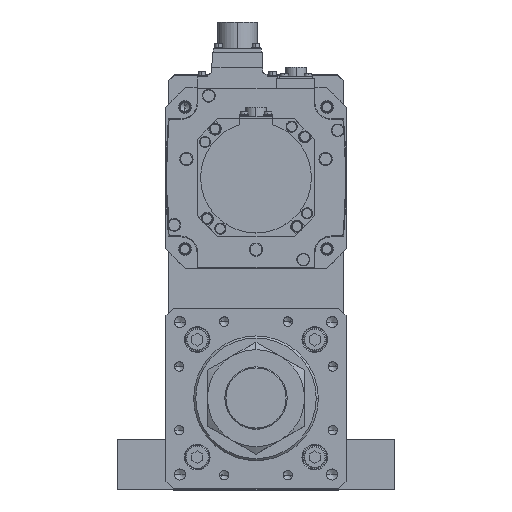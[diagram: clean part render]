
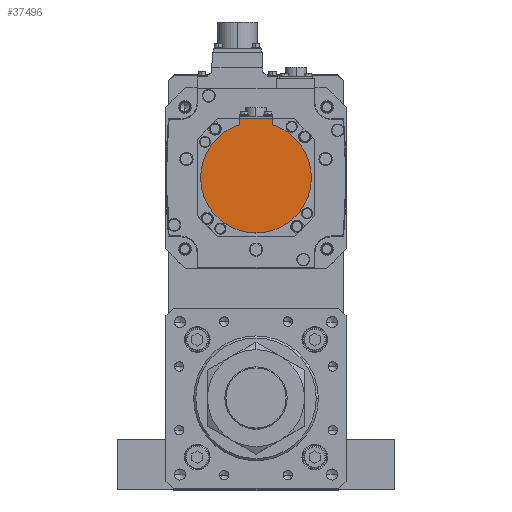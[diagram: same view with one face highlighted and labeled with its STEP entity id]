
A CAD part, top view. The second image highlights one B-rep face of the part: STEP entity #37496.
In plain terms, the highlighted planar face has unit normal (0, 0, 1) as drawn and (0, 0, -1) by its records, which use the part's own axes.
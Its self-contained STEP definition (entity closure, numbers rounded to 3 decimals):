
#13 = EDGE_CURVE ( 'NONE', #27817, #18389, #14792, .T. ) ;
#217 = EDGE_CURVE ( 'NONE', #10109, #5831, #19554, .T. ) ;
#2317 = DIRECTION ( 'NONE',  ( 1., 0., 0. ) ) ;
#4068 = CARTESIAN_POINT ( 'NONE',  ( 40., 0., -181. ) ) ;
#4081 = EDGE_LOOP ( 'NONE', ( #11604, #16901, #17465, #10511, #6328, #5099 ) ) ;
#4298 = DIRECTION ( 'NONE',  ( 1., 0., 0. ) ) ;
#4567 = AXIS2_PLACEMENT_3D ( 'NONE', #17778, #35994, #11926 ) ;
#4909 = VECTOR ( 'NONE', #25152, 1000. ) ;
#5099 = ORIENTED_EDGE ( 'NONE', *, *, #23858, .T. ) ;
#5509 = PLANE ( 'NONE',  #32263 ) ;
#5831 = VERTEX_POINT ( 'NONE', #10088 ) ;
#6102 = CARTESIAN_POINT ( 'NONE',  ( -12., -42.5, -181. ) ) ;
#6328 = ORIENTED_EDGE ( 'NONE', *, *, #217, .F. ) ;
#6397 = AXIS2_PLACEMENT_3D ( 'NONE', #38731, #29510, #20907 ) ;
#6482 = CARTESIAN_POINT ( 'NONE',  ( -12., -38.158, -181. ) ) ;
#6939 = CIRCLE ( 'NONE', #4567, 40. ) ;
#9593 = VERTEX_POINT ( 'NONE', #6102 ) ;
#10088 = CARTESIAN_POINT ( 'NONE',  ( 12., -38.158, -181. ) ) ;
#10109 = VERTEX_POINT ( 'NONE', #14183 ) ;
#10511 = ORIENTED_EDGE ( 'NONE', *, *, #18195, .F. ) ;
#11604 = ORIENTED_EDGE ( 'NONE', *, *, #21572, .T. ) ;
#11722 = FACE_OUTER_BOUND ( 'NONE', #4081, .T. ) ;
#11926 = DIRECTION ( 'NONE',  ( 1., 0., 0. ) ) ;
#12464 = VERTEX_POINT ( 'NONE', #6482 ) ;
#14183 = CARTESIAN_POINT ( 'NONE',  ( 12., -42.5, -181. ) ) ;
#14792 = CIRCLE ( 'NONE', #6397, 40. ) ;
#16646 = AXIS2_PLACEMENT_3D ( 'NONE', #31941, #37614, #4298 ) ;
#16901 = ORIENTED_EDGE ( 'NONE', *, *, #30576, .F. ) ;
#17465 = ORIENTED_EDGE ( 'NONE', *, *, #13, .F. ) ;
#17778 = CARTESIAN_POINT ( 'NONE',  ( 0., 0., -181. ) ) ;
#18195 = EDGE_CURVE ( 'NONE', #5831, #27817, #6939, .T. ) ;
#18389 = VERTEX_POINT ( 'NONE', #34293 ) ;
#19554 = LINE ( 'NONE', #32455, #26631 ) ;
#20907 = DIRECTION ( 'NONE',  ( 1., 0., 0. ) ) ;
#21572 = EDGE_CURVE ( 'NONE', #9593, #12464, #37089, .T. ) ;
#21854 = LINE ( 'NONE', #24355, #28950 ) ;
#23858 = EDGE_CURVE ( 'NONE', #10109, #9593, #21854, .T. ) ;
#24111 = CIRCLE ( 'NONE', #16646, 40. ) ;
#24221 = DIRECTION ( 'NONE',  ( -1., 0., 0. ) ) ;
#24355 = CARTESIAN_POINT ( 'NONE',  ( 0., -42.5, -181. ) ) ;
#25152 = DIRECTION ( 'NONE',  ( 0., 1., 0. ) ) ;
#26631 = VECTOR ( 'NONE', #32197, 1000. ) ;
#27817 = VERTEX_POINT ( 'NONE', #4068 ) ;
#28066 = CARTESIAN_POINT ( 'NONE',  ( -12., -40.329, -181. ) ) ;
#28950 = VECTOR ( 'NONE', #24221, 1000. ) ;
#29454 = DIRECTION ( 'NONE',  ( 0., 0., 1. ) ) ;
#29510 = DIRECTION ( 'NONE',  ( 0., 0., 1. ) ) ;
#30576 = EDGE_CURVE ( 'NONE', #18389, #12464, #24111, .T. ) ;
#31941 = CARTESIAN_POINT ( 'NONE',  ( 0., 0., -181. ) ) ;
#32197 = DIRECTION ( 'NONE',  ( 0., 1., 0. ) ) ;
#32263 = AXIS2_PLACEMENT_3D ( 'NONE', #35374, #29454, #2317 ) ;
#32455 = CARTESIAN_POINT ( 'NONE',  ( 12., -1.25, -181. ) ) ;
#34293 = CARTESIAN_POINT ( 'NONE',  ( -40., 0., -181. ) ) ;
#35374 = CARTESIAN_POINT ( 'NONE',  ( 0., -1.25, -181. ) ) ;
#35994 = DIRECTION ( 'NONE',  ( 0., 0., 1. ) ) ;
#37089 = LINE ( 'NONE', #28066, #4909 ) ;
#37496 = ADVANCED_FACE ( 'NONE', ( #11722 ), #5509, .F. ) ;
#37614 = DIRECTION ( 'NONE',  ( 0., 0., 1. ) ) ;
#38731 = CARTESIAN_POINT ( 'NONE',  ( 0., 0., -181. ) ) ;
